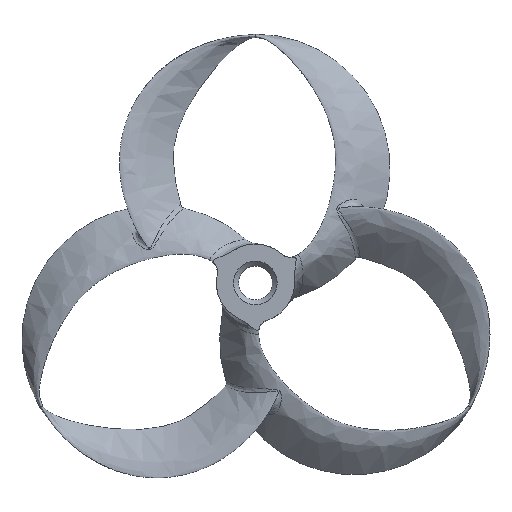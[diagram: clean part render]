
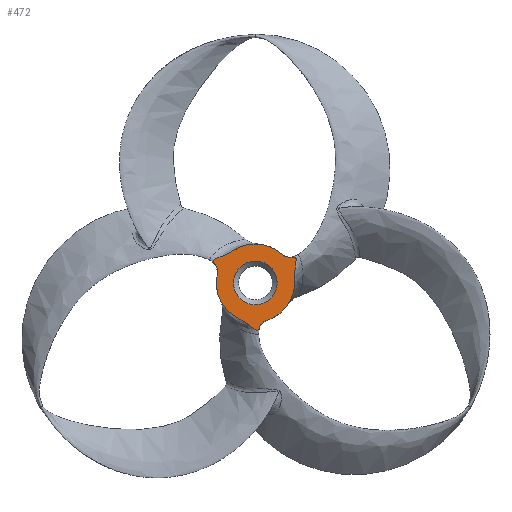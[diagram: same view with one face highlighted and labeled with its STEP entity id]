
A CAD part, top view. The second image highlights one B-rep face of the part: STEP entity #472.
In plain terms, the highlighted planar face has unit normal (0, 0, 1).
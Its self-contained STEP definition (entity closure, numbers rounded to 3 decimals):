
#28=FACE_BOUND('',#117,.T.);
#30=PLANE('',#521);
#52=CIRCLE('',#505,6.);
#54=CIRCLE('',#508,6.);
#62=CIRCLE('',#520,3.35);
#63=CIRCLE('',#522,6.);
#89=FACE_OUTER_BOUND('',#116,.T.);
#116=EDGE_LOOP('',(#343,#344,#345,#346,#347,#348));
#117=EDGE_LOOP('',(#349));
#134=B_SPLINE_CURVE_WITH_KNOTS('',3,(#847,#848,#849,#850,#851,#852,#853,
#854,#855,#856,#857,#858,#859,#860,#861,#862,#863,#864,#865,#866,#867,#868,
#869,#870,#871,#872,#873,#874),.UNSPECIFIED.,.F.,.F.,(4,2,2,2,2,2,2,2,2,
2,2,2,2,4),(-1.468,-1.116,-0.623,-0.471,
-0.426,-0.394,-0.357,-0.334,
-0.31,-0.286,-0.258,-0.182,
-0.079,0.),.UNSPECIFIED.);
#141=B_SPLINE_CURVE_WITH_KNOTS('',3,(#1169,#1170,#1171,#1172,#1173,#1174,
#1175,#1176,#1177,#1178,#1179,#1180,#1181,#1182,#1183,#1184,#1185,#1186,
#1187,#1188,#1189,#1190,#1191,#1192,#1193,#1194,#1195,#1196),
 .UNSPECIFIED.,.F.,.F.,(4,2,2,2,2,2,2,2,2,2,2,2,2,4),(-1.468,
-1.116,-0.623,-0.471,-0.426,
-0.394,-0.357,-0.334,-0.31,
-0.286,-0.258,-0.182,-0.079,
0.),.UNSPECIFIED.);
#148=B_SPLINE_CURVE_WITH_KNOTS('',3,(#1489,#1490,#1491,#1492,#1493,#1494,
#1495,#1496,#1497,#1498,#1499,#1500,#1501,#1502,#1503,#1504,#1505,#1506,
#1507,#1508,#1509,#1510,#1511,#1512,#1513,#1514,#1515,#1516),
 .UNSPECIFIED.,.F.,.F.,(4,2,2,2,2,2,2,2,2,2,2,2,2,4),(-1.468,
-1.116,-0.623,-0.471,-0.426,
-0.394,-0.357,-0.334,-0.31,
-0.286,-0.258,-0.182,-0.079,
0.),.UNSPECIFIED.);
#169=VERTEX_POINT('',#845);
#170=VERTEX_POINT('',#846);
#176=VERTEX_POINT('',#1167);
#177=VERTEX_POINT('',#1168);
#183=VERTEX_POINT('',#1487);
#184=VERTEX_POINT('',#1488);
#193=VERTEX_POINT('',#1619);
#217=EDGE_CURVE('',#169,#170,#134,.T.);
#224=EDGE_CURVE('',#176,#177,#141,.T.);
#231=EDGE_CURVE('',#183,#184,#148,.T.);
#239=EDGE_CURVE('',#170,#176,#52,.T.);
#241=EDGE_CURVE('',#177,#183,#54,.T.);
#251=EDGE_CURVE('',#193,#193,#62,.T.);
#253=EDGE_CURVE('',#184,#169,#63,.T.);
#343=ORIENTED_EDGE('',*,*,#217,.T.);
#344=ORIENTED_EDGE('',*,*,#239,.T.);
#345=ORIENTED_EDGE('',*,*,#224,.T.);
#346=ORIENTED_EDGE('',*,*,#241,.T.);
#347=ORIENTED_EDGE('',*,*,#231,.T.);
#348=ORIENTED_EDGE('',*,*,#253,.T.);
#349=ORIENTED_EDGE('',*,*,#251,.F.);
#472=ADVANCED_FACE('',(#89,#28),#30,.T.);
#505=AXIS2_PLACEMENT_3D('',#1599,#548,#549);
#508=AXIS2_PLACEMENT_3D('',#1602,#554,#555);
#520=AXIS2_PLACEMENT_3D('',#1620,#580,#581);
#521=AXIS2_PLACEMENT_3D('',#1622,#583,#584);
#522=AXIS2_PLACEMENT_3D('',#1623,#585,#586);
#548=DIRECTION('center_axis',(0.,0.,1.));
#549=DIRECTION('ref_axis',(1.,0.,0.));
#554=DIRECTION('center_axis',(0.,0.,1.));
#555=DIRECTION('ref_axis',(1.,0.,0.));
#580=DIRECTION('center_axis',(0.,0.,1.));
#581=DIRECTION('ref_axis',(1.,0.,0.));
#583=DIRECTION('center_axis',(0.,0.,1.));
#584=DIRECTION('ref_axis',(1.,0.,0.));
#585=DIRECTION('center_axis',(0.,0.,1.));
#586=DIRECTION('ref_axis',(1.,0.,0.));
#845=CARTESIAN_POINT('',(5.99,0.354,6.));
#846=CARTESIAN_POINT('',(4.005,4.468,6.));
#847=CARTESIAN_POINT('Ctrl Pts',(5.99,0.354,6.));
#848=CARTESIAN_POINT('Ctrl Pts',(5.964,0.781,6.));
#849=CARTESIAN_POINT('Ctrl Pts',(5.988,1.204,6.));
#850=CARTESIAN_POINT('Ctrl Pts',(6.099,2.235,6.));
#851=CARTESIAN_POINT('Ctrl Pts',(6.207,2.827,6.));
#852=CARTESIAN_POINT('Ctrl Pts',(6.255,3.42,6.));
#853=CARTESIAN_POINT('Ctrl Pts',(6.261,3.555,6.));
#854=CARTESIAN_POINT('Ctrl Pts',(6.249,3.699,6.));
#855=CARTESIAN_POINT('Ctrl Pts',(6.245,3.732,6.));
#856=CARTESIAN_POINT('Ctrl Pts',(6.233,3.787,6.));
#857=CARTESIAN_POINT('Ctrl Pts',(6.227,3.811,6.));
#858=CARTESIAN_POINT('Ctrl Pts',(6.21,3.859,6.));
#859=CARTESIAN_POINT('Ctrl Pts',(6.196,3.889,6.));
#860=CARTESIAN_POINT('Ctrl Pts',(6.16,3.931,6.));
#861=CARTESIAN_POINT('Ctrl Pts',(6.144,3.945,6.));
#862=CARTESIAN_POINT('Ctrl Pts',(6.105,3.965,6.));
#863=CARTESIAN_POINT('Ctrl Pts',(6.084,3.97,6.));
#864=CARTESIAN_POINT('Ctrl Pts',(6.041,3.976,6.));
#865=CARTESIAN_POINT('Ctrl Pts',(6.016,3.977,6.));
#866=CARTESIAN_POINT('Ctrl Pts',(5.954,3.975,6.));
#867=CARTESIAN_POINT('Ctrl Pts',(5.917,3.972,6.));
#868=CARTESIAN_POINT('Ctrl Pts',(5.775,3.959,6.));
#869=CARTESIAN_POINT('Ctrl Pts',(5.647,3.944,6.));
#870=CARTESIAN_POINT('Ctrl Pts',(5.293,3.935,6.));
#871=CARTESIAN_POINT('Ctrl Pts',(5.001,3.951,6.));
#872=CARTESIAN_POINT('Ctrl Pts',(4.43,4.156,6.));
#873=CARTESIAN_POINT('Ctrl Pts',(4.202,4.291,6.));
#874=CARTESIAN_POINT('Ctrl Pts',(4.005,4.468,6.));
#1167=CARTESIAN_POINT('',(-3.302,5.01,6.));
#1168=CARTESIAN_POINT('',(-5.872,1.234,6.));
#1169=CARTESIAN_POINT('Ctrl Pts',(-3.302,5.01,6.));
#1170=CARTESIAN_POINT('Ctrl Pts',(-3.658,4.775,6.));
#1171=CARTESIAN_POINT('Ctrl Pts',(-4.036,4.584,6.));
#1172=CARTESIAN_POINT('Ctrl Pts',(-4.985,4.164,6.));
#1173=CARTESIAN_POINT('Ctrl Pts',(-5.552,3.962,6.));
#1174=CARTESIAN_POINT('Ctrl Pts',(-6.089,3.707,6.));
#1175=CARTESIAN_POINT('Ctrl Pts',(-6.209,3.644,6.));
#1176=CARTESIAN_POINT('Ctrl Pts',(-6.328,3.562,6.));
#1177=CARTESIAN_POINT('Ctrl Pts',(-6.355,3.542,6.));
#1178=CARTESIAN_POINT('Ctrl Pts',(-6.397,3.505,6.));
#1179=CARTESIAN_POINT('Ctrl Pts',(-6.414,3.488,6.));
#1180=CARTESIAN_POINT('Ctrl Pts',(-6.447,3.449,6.));
#1181=CARTESIAN_POINT('Ctrl Pts',(-6.466,3.421,6.));
#1182=CARTESIAN_POINT('Ctrl Pts',(-6.485,3.369,6.));
#1183=CARTESIAN_POINT('Ctrl Pts',(-6.488,3.348,6.));
#1184=CARTESIAN_POINT('Ctrl Pts',(-6.486,3.305,6.));
#1185=CARTESIAN_POINT('Ctrl Pts',(-6.481,3.284,6.));
#1186=CARTESIAN_POINT('Ctrl Pts',(-6.464,3.243,6.));
#1187=CARTESIAN_POINT('Ctrl Pts',(-6.452,3.221,6.));
#1188=CARTESIAN_POINT('Ctrl Pts',(-6.42,3.169,6.));
#1189=CARTESIAN_POINT('Ctrl Pts',(-6.399,3.138,6.));
#1190=CARTESIAN_POINT('Ctrl Pts',(-6.316,3.022,6.));
#1191=CARTESIAN_POINT('Ctrl Pts',(-6.239,2.919,6.));
#1192=CARTESIAN_POINT('Ctrl Pts',(-6.055,2.616,6.));
#1193=CARTESIAN_POINT('Ctrl Pts',(-5.922,2.356,6.));
#1194=CARTESIAN_POINT('Ctrl Pts',(-5.814,1.759,6.));
#1195=CARTESIAN_POINT('Ctrl Pts',(-5.817,1.493,6.));
#1196=CARTESIAN_POINT('Ctrl Pts',(-5.872,1.234,6.));
#1487=CARTESIAN_POINT('',(-2.688,-5.364,6.));
#1488=CARTESIAN_POINT('',(1.867,-5.702,6.));
#1489=CARTESIAN_POINT('Ctrl Pts',(-2.688,-5.364,6.));
#1490=CARTESIAN_POINT('Ctrl Pts',(-2.306,-5.556,6.));
#1491=CARTESIAN_POINT('Ctrl Pts',(-1.951,-5.787,6.));
#1492=CARTESIAN_POINT('Ctrl Pts',(-1.114,-6.399,6.));
#1493=CARTESIAN_POINT('Ctrl Pts',(-0.655,-6.789,
6.));
#1494=CARTESIAN_POINT('Ctrl Pts',(-0.166,-7.127,6.));
#1495=CARTESIAN_POINT('Ctrl Pts',(-0.051,-7.199,
6.));
#1496=CARTESIAN_POINT('Ctrl Pts',(0.079,-7.261,
6.));
#1497=CARTESIAN_POINT('Ctrl Pts',(0.11,-7.274,6.));
#1498=CARTESIAN_POINT('Ctrl Pts',(0.163,-7.292,6.));
#1499=CARTESIAN_POINT('Ctrl Pts',(0.187,-7.298,6.));
#1500=CARTESIAN_POINT('Ctrl Pts',(0.237,-7.307,6.));
#1501=CARTESIAN_POINT('Ctrl Pts',(0.27,-7.31,6.));
#1502=CARTESIAN_POINT('Ctrl Pts',(0.325,-7.3,6.));
#1503=CARTESIAN_POINT('Ctrl Pts',(0.345,-7.293,6.));
#1504=CARTESIAN_POINT('Ctrl Pts',(0.381,-7.269,6.));
#1505=CARTESIAN_POINT('Ctrl Pts',(0.396,-7.254,6.));
#1506=CARTESIAN_POINT('Ctrl Pts',(0.423,-7.22,6.));
#1507=CARTESIAN_POINT('Ctrl Pts',(0.436,-7.198,6.));
#1508=CARTESIAN_POINT('Ctrl Pts',(0.466,-7.144,6.));
#1509=CARTESIAN_POINT('Ctrl Pts',(0.482,-7.11,6.));
#1510=CARTESIAN_POINT('Ctrl Pts',(0.541,-6.98,6.));
#1511=CARTESIAN_POINT('Ctrl Pts',(0.592,-6.862,6.));
#1512=CARTESIAN_POINT('Ctrl Pts',(0.761,-6.552,6.));
#1513=CARTESIAN_POINT('Ctrl Pts',(0.921,-6.307,6.));
#1514=CARTESIAN_POINT('Ctrl Pts',(1.384,-5.915,6.));
#1515=CARTESIAN_POINT('Ctrl Pts',(1.616,-5.784,6.));
#1516=CARTESIAN_POINT('Ctrl Pts',(1.867,-5.702,6.));
#1599=CARTESIAN_POINT('Origin',(0.,0.,6.));
#1602=CARTESIAN_POINT('Origin',(0.,0.,6.));
#1619=CARTESIAN_POINT('',(-3.35,0.,6.));
#1620=CARTESIAN_POINT('Origin',(0.,0.,6.));
#1622=CARTESIAN_POINT('Origin',(0.,0.,6.));
#1623=CARTESIAN_POINT('Origin',(0.,0.,6.));
